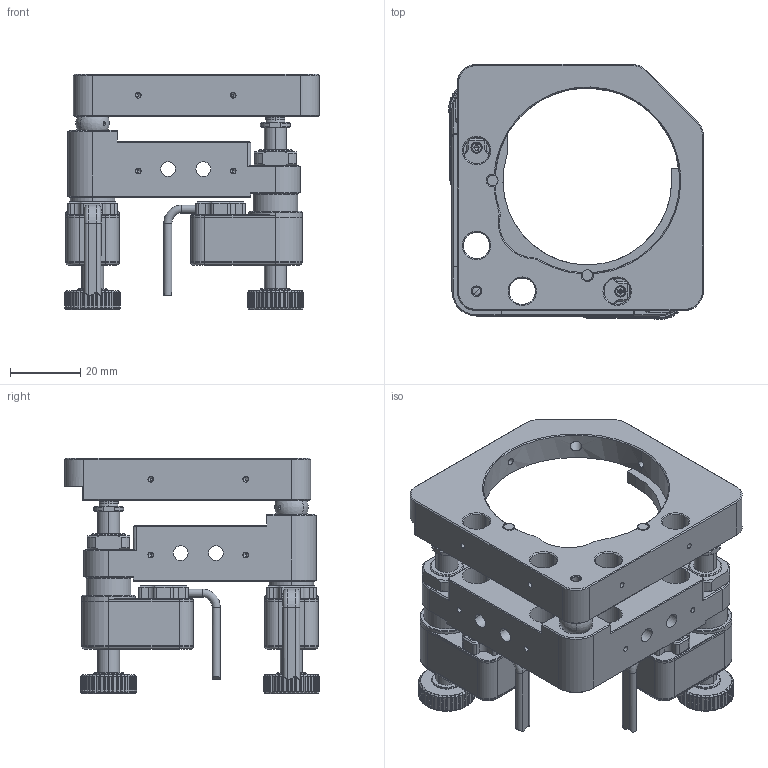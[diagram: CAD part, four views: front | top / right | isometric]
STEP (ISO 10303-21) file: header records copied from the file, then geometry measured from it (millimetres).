
FILE_DESCRIPTION (( 'STEP AP203' ), '1' );
FILE_NAME ('T50N81K13-B2压电镜架外形尺寸图-22.05.13.STEP', '2022-05-13T01:52:40', ( '' ), ( '' ), 'SwSTEP 2.0', 'SolidWorks 2016', '' );
FILE_SCHEMA (( 'CONFIG_CONTROL_DESIGN' ));
Products named in the file (1): T50N81K13-B2压电镜架外形尺寸图-22.05.13
Bounding box: 72.44 x 72.44 x 67.04 mm (x, y, z)
Volume: 67951.2 mm3; surface area: 41519.2 mm2
Topology: 36 solids, 36 shells, 1548 faces, 3857 edges, 2395 vertices
Faces by surface type: cylinder 624, plane 600, cone 290, torus 26, sphere 6, bspline 2
Entity records: 50383 total; most frequent: CARTESIAN_POINT 13966, ORIENTED_EDGE 7576, DIRECTION 7530, EDGE_CURVE 3788, AXIS2_PLACEMENT_3D 2882, VERTEX_POINT 2388, VECTOR 1766, LINE 1766
